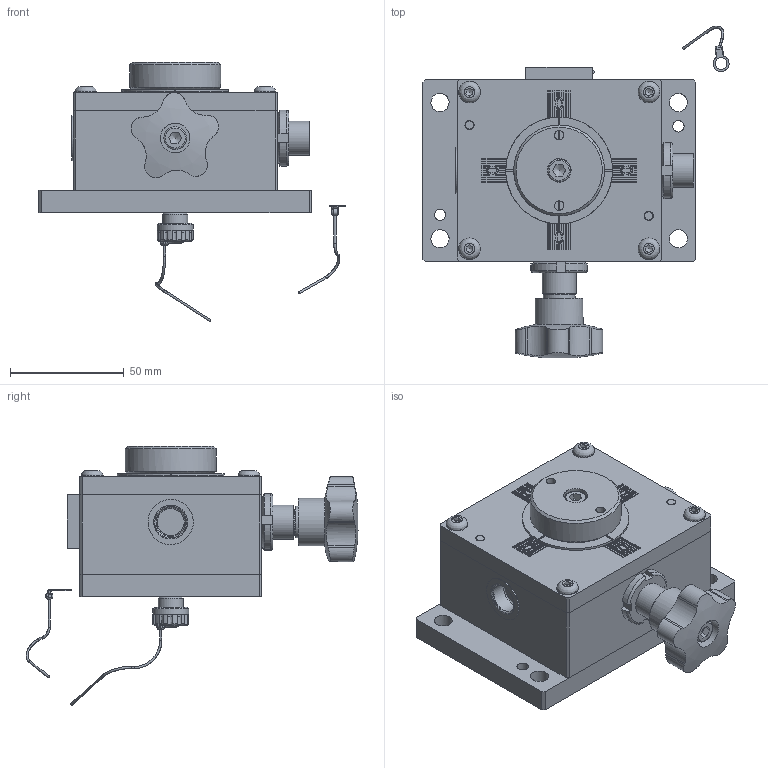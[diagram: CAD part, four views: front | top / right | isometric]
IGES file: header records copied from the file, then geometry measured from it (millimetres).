
Global section: file name: 146.00-X; native system: Autodesk Inventor 2019; preprocessor: unknown; author: AP; date: 20200220.145457; units: millimetre
Bounding box: 134.82 x 146.23 x 114.1 mm (x, y, z)
Volume: 394372.3 mm3; surface area: 134476.9 mm2
Topology: 45 solids, 45 shells, 1067 faces, 2757 edges, 1877 vertices
Faces by surface type: bspline 1067
